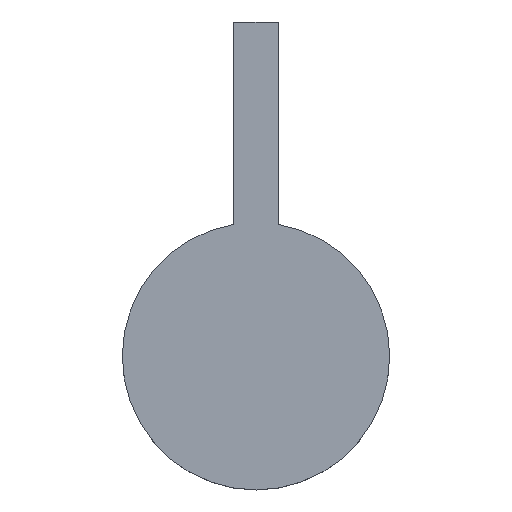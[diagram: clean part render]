
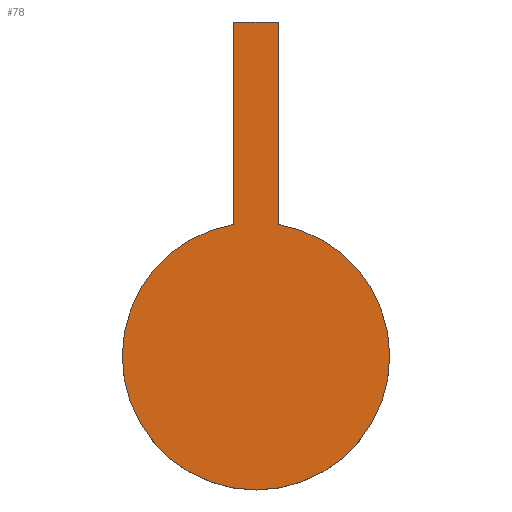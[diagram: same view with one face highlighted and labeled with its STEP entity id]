
A CAD part, top view. The second image highlights one B-rep face of the part: STEP entity #78.
In plain terms, the highlighted planar face has unit normal (0, 0, 1).
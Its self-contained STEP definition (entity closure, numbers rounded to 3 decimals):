
#78 = ADVANCED_FACE( '', ( #163 ), #164, .F. );
#163 = FACE_OUTER_BOUND( '', #246, .T. );
#164 = PLANE( '', #247 );
#246 = EDGE_LOOP( '', ( #388, #389, #390, #391 ) );
#247 = AXIS2_PLACEMENT_3D( '', #392, #393, #394 );
#388 = ORIENTED_EDGE( '', *, *, #477, .F. );
#389 = ORIENTED_EDGE( '', *, *, #488, .F. );
#390 = ORIENTED_EDGE( '', *, *, #462, .F. );
#391 = ORIENTED_EDGE( '', *, *, #472, .F. );
#392 = CARTESIAN_POINT( '', ( -150., 150., 0. ) );
#393 = DIRECTION( '', ( 0., 0., -1. ) );
#394 = DIRECTION( '', ( 0., 1., 0. ) );
#462 = EDGE_CURVE( '', #542, #534, #544, .T. );
#472 = EDGE_CURVE( '', #557, #542, #559, .T. );
#477 = EDGE_CURVE( '', #565, #557, #566, .T. );
#488 = EDGE_CURVE( '', #534, #565, #579, .T. );
#534 = VERTEX_POINT( '', #633 );
#542 = VERTEX_POINT( '', #648 );
#544 = LINE( '', #651, #652 );
#557 = VERTEX_POINT( '', #665 );
#559 = LINE( '', #668, #669 );
#565 = VERTEX_POINT( '', #675 );
#566 = LINE( '', #676, #677 );
#579 = CIRCLE( '', #697, 60. );
#633 = CARTESIAN_POINT( '', ( 10., 59.161, 0. ) );
#648 = CARTESIAN_POINT( '', ( 10., 150., 0. ) );
#651 = CARTESIAN_POINT( '', ( 10., 150., 0. ) );
#652 = VECTOR( '', #745, 1000. );
#665 = CARTESIAN_POINT( '', ( -10., 150., 0. ) );
#668 = CARTESIAN_POINT( '', ( -150., 150., 0. ) );
#669 = VECTOR( '', #759, 1000. );
#675 = CARTESIAN_POINT( '', ( -10., 59.161, 0. ) );
#676 = CARTESIAN_POINT( '', ( -10., 0., 0. ) );
#677 = VECTOR( '', #763, 1000. );
#697 = AXIS2_PLACEMENT_3D( '', #771, #772, #773 );
#745 = DIRECTION( '', ( 0., -1., 0. ) );
#759 = DIRECTION( '', ( 1., 0., 0. ) );
#763 = DIRECTION( '', ( 0., 1., 0. ) );
#771 = CARTESIAN_POINT( '', ( 0., 0., 0. ) );
#772 = DIRECTION( '', ( 0., 0., -1. ) );
#773 = DIRECTION( '', ( -1., 0., 0. ) );
